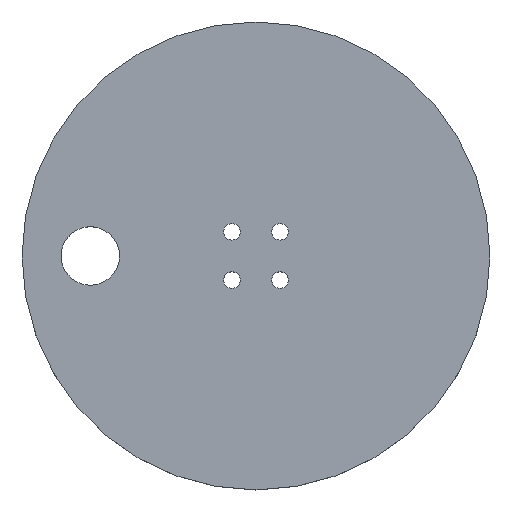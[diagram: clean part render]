
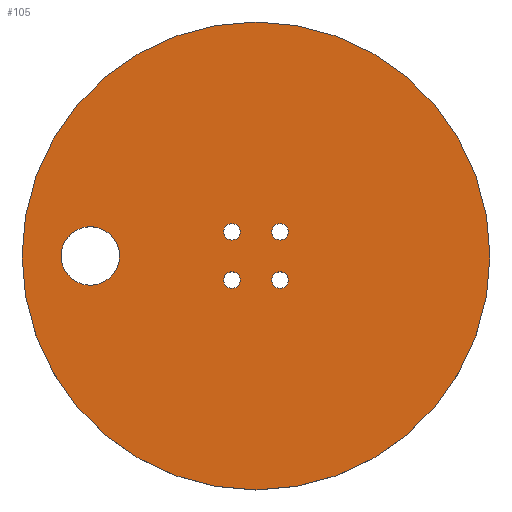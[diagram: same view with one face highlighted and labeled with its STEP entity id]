
A CAD part, top view. The second image highlights one B-rep face of the part: STEP entity #105.
In plain terms, the highlighted planar face has unit normal (0, 0, 1).
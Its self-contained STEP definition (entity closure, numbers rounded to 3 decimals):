
#21 = EDGE_CURVE('',#22,#22,#24,.T.);
#22 = VERTEX_POINT('',#23);
#23 = CARTESIAN_POINT('',(78.,0.,158.381));
#24 = SURFACE_CURVE('',#25,(#30,#42),.PCURVE_S1.);
#25 = CIRCLE('',#26,48.);
#26 = AXIS2_PLACEMENT_3D('',#27,#28,#29);
#27 = CARTESIAN_POINT('',(30.,0.,158.381));
#28 = DIRECTION('',(0.,0.,1.));
#29 = DIRECTION('',(1.,0.,0.));
#30 = PCURVE('',#31,#36);
#31 = CYLINDRICAL_SURFACE('',#32,48.);
#32 = AXIS2_PLACEMENT_3D('',#33,#34,#35);
#33 = CARTESIAN_POINT('',(30.,0.,150.381));
#34 = DIRECTION('',(0.,0.,1.));
#35 = DIRECTION('',(1.,0.,0.));
#36 = DEFINITIONAL_REPRESENTATION('',(#37),#41);
#37 = LINE('',#38,#39);
#38 = CARTESIAN_POINT('',(0.,8.));
#39 = VECTOR('',#40,1.);
#40 = DIRECTION('',(1.,0.));
#41 = ( GEOMETRIC_REPRESENTATION_CONTEXT(2) 
PARAMETRIC_REPRESENTATION_CONTEXT() REPRESENTATION_CONTEXT('2D SPACE',''
  ) );
#42 = PCURVE('',#43,#48);
#43 = PLANE('',#44);
#44 = AXIS2_PLACEMENT_3D('',#45,#46,#47);
#45 = CARTESIAN_POINT('',(30.,0.,158.381));
#46 = DIRECTION('',(0.,0.,1.));
#47 = DIRECTION('',(1.,0.,0.));
#48 = DEFINITIONAL_REPRESENTATION('',(#49),#53);
#49 = CIRCLE('',#50,48.);
#50 = AXIS2_PLACEMENT_2D('',#51,#52);
#51 = CARTESIAN_POINT('',(0.,0.));
#52 = DIRECTION('',(1.,0.));
#53 = ( GEOMETRIC_REPRESENTATION_CONTEXT(2) 
PARAMETRIC_REPRESENTATION_CONTEXT() REPRESENTATION_CONTEXT('2D SPACE',''
  ) );
#105 = ADVANCED_FACE('',(#106,#109,#140,#171,#202,#233),#43,.T.);
#106 = FACE_BOUND('',#107,.T.);
#107 = EDGE_LOOP('',(#108));
#108 = ORIENTED_EDGE('',*,*,#21,.T.);
#109 = FACE_BOUND('',#110,.T.);
#110 = EDGE_LOOP('',(#111));
#111 = ORIENTED_EDGE('',*,*,#112,.F.);
#112 = EDGE_CURVE('',#113,#113,#115,.T.);
#113 = VERTEX_POINT('',#114);
#114 = CARTESIAN_POINT('',(26.75,-4.95,158.381));
#115 = SURFACE_CURVE('',#116,(#121,#128),.PCURVE_S1.);
#116 = CIRCLE('',#117,1.7);
#117 = AXIS2_PLACEMENT_3D('',#118,#119,#120);
#118 = CARTESIAN_POINT('',(25.05,-4.95,158.381));
#119 = DIRECTION('',(0.,0.,1.));
#120 = DIRECTION('',(1.,0.,-0.));
#121 = PCURVE('',#43,#122);
#122 = DEFINITIONAL_REPRESENTATION('',(#123),#127);
#123 = CIRCLE('',#124,1.7);
#124 = AXIS2_PLACEMENT_2D('',#125,#126);
#125 = CARTESIAN_POINT('',(-4.95,-4.95));
#126 = DIRECTION('',(1.,0.));
#127 = ( GEOMETRIC_REPRESENTATION_CONTEXT(2) 
PARAMETRIC_REPRESENTATION_CONTEXT() REPRESENTATION_CONTEXT('2D SPACE',''
  ) );
#128 = PCURVE('',#129,#134);
#129 = CYLINDRICAL_SURFACE('',#130,1.7);
#130 = AXIS2_PLACEMENT_3D('',#131,#132,#133);
#131 = CARTESIAN_POINT('',(25.05,-4.95,149.381));
#132 = DIRECTION('',(0.,0.,1.));
#133 = DIRECTION('',(1.,0.,0.));
#134 = DEFINITIONAL_REPRESENTATION('',(#135),#139);
#135 = LINE('',#136,#137);
#136 = CARTESIAN_POINT('',(0.,9.));
#137 = VECTOR('',#138,1.);
#138 = DIRECTION('',(1.,0.));
#139 = ( GEOMETRIC_REPRESENTATION_CONTEXT(2) 
PARAMETRIC_REPRESENTATION_CONTEXT() REPRESENTATION_CONTEXT('2D SPACE',''
  ) );
#140 = FACE_BOUND('',#141,.T.);
#141 = EDGE_LOOP('',(#142));
#142 = ORIENTED_EDGE('',*,*,#143,.F.);
#143 = EDGE_CURVE('',#144,#144,#146,.T.);
#144 = VERTEX_POINT('',#145);
#145 = CARTESIAN_POINT('',(36.65,-4.95,158.381));
#146 = SURFACE_CURVE('',#147,(#152,#159),.PCURVE_S1.);
#147 = CIRCLE('',#148,1.7);
#148 = AXIS2_PLACEMENT_3D('',#149,#150,#151);
#149 = CARTESIAN_POINT('',(34.95,-4.95,158.381));
#150 = DIRECTION('',(0.,0.,1.));
#151 = DIRECTION('',(1.,0.,-0.));
#152 = PCURVE('',#43,#153);
#153 = DEFINITIONAL_REPRESENTATION('',(#154),#158);
#154 = CIRCLE('',#155,1.7);
#155 = AXIS2_PLACEMENT_2D('',#156,#157);
#156 = CARTESIAN_POINT('',(4.95,-4.95));
#157 = DIRECTION('',(1.,0.));
#158 = ( GEOMETRIC_REPRESENTATION_CONTEXT(2) 
PARAMETRIC_REPRESENTATION_CONTEXT() REPRESENTATION_CONTEXT('2D SPACE',''
  ) );
#159 = PCURVE('',#160,#165);
#160 = CYLINDRICAL_SURFACE('',#161,1.7);
#161 = AXIS2_PLACEMENT_3D('',#162,#163,#164);
#162 = CARTESIAN_POINT('',(34.95,-4.95,149.381));
#163 = DIRECTION('',(0.,0.,1.));
#164 = DIRECTION('',(1.,0.,0.));
#165 = DEFINITIONAL_REPRESENTATION('',(#166),#170);
#166 = LINE('',#167,#168);
#167 = CARTESIAN_POINT('',(0.,9.));
#168 = VECTOR('',#169,1.);
#169 = DIRECTION('',(1.,0.));
#170 = ( GEOMETRIC_REPRESENTATION_CONTEXT(2) 
PARAMETRIC_REPRESENTATION_CONTEXT() REPRESENTATION_CONTEXT('2D SPACE',''
  ) );
#171 = FACE_BOUND('',#172,.T.);
#172 = EDGE_LOOP('',(#173));
#173 = ORIENTED_EDGE('',*,*,#174,.F.);
#174 = EDGE_CURVE('',#175,#175,#177,.T.);
#175 = VERTEX_POINT('',#176);
#176 = CARTESIAN_POINT('',(2.,0.,158.381));
#177 = SURFACE_CURVE('',#178,(#183,#190),.PCURVE_S1.);
#178 = CIRCLE('',#179,6.);
#179 = AXIS2_PLACEMENT_3D('',#180,#181,#182);
#180 = CARTESIAN_POINT('',(-4.,0.,158.381));
#181 = DIRECTION('',(0.,0.,1.));
#182 = DIRECTION('',(1.,0.,-0.));
#183 = PCURVE('',#43,#184);
#184 = DEFINITIONAL_REPRESENTATION('',(#185),#189);
#185 = CIRCLE('',#186,6.);
#186 = AXIS2_PLACEMENT_2D('',#187,#188);
#187 = CARTESIAN_POINT('',(-34.,0.));
#188 = DIRECTION('',(1.,0.));
#189 = ( GEOMETRIC_REPRESENTATION_CONTEXT(2) 
PARAMETRIC_REPRESENTATION_CONTEXT() REPRESENTATION_CONTEXT('2D SPACE',''
  ) );
#190 = PCURVE('',#191,#196);
#191 = CYLINDRICAL_SURFACE('',#192,6.);
#192 = AXIS2_PLACEMENT_3D('',#193,#194,#195);
#193 = CARTESIAN_POINT('',(-4.,0.,149.381));
#194 = DIRECTION('',(0.,0.,1.));
#195 = DIRECTION('',(1.,0.,0.));
#196 = DEFINITIONAL_REPRESENTATION('',(#197),#201);
#197 = LINE('',#198,#199);
#198 = CARTESIAN_POINT('',(0.,9.));
#199 = VECTOR('',#200,1.);
#200 = DIRECTION('',(1.,0.));
#201 = ( GEOMETRIC_REPRESENTATION_CONTEXT(2) 
PARAMETRIC_REPRESENTATION_CONTEXT() REPRESENTATION_CONTEXT('2D SPACE',''
  ) );
#202 = FACE_BOUND('',#203,.T.);
#203 = EDGE_LOOP('',(#204));
#204 = ORIENTED_EDGE('',*,*,#205,.F.);
#205 = EDGE_CURVE('',#206,#206,#208,.T.);
#206 = VERTEX_POINT('',#207);
#207 = CARTESIAN_POINT('',(26.75,4.95,158.381));
#208 = SURFACE_CURVE('',#209,(#214,#221),.PCURVE_S1.);
#209 = CIRCLE('',#210,1.7);
#210 = AXIS2_PLACEMENT_3D('',#211,#212,#213);
#211 = CARTESIAN_POINT('',(25.05,4.95,158.381));
#212 = DIRECTION('',(0.,0.,1.));
#213 = DIRECTION('',(1.,0.,-0.));
#214 = PCURVE('',#43,#215);
#215 = DEFINITIONAL_REPRESENTATION('',(#216),#220);
#216 = CIRCLE('',#217,1.7);
#217 = AXIS2_PLACEMENT_2D('',#218,#219);
#218 = CARTESIAN_POINT('',(-4.95,4.95));
#219 = DIRECTION('',(1.,0.));
#220 = ( GEOMETRIC_REPRESENTATION_CONTEXT(2) 
PARAMETRIC_REPRESENTATION_CONTEXT() REPRESENTATION_CONTEXT('2D SPACE',''
  ) );
#221 = PCURVE('',#222,#227);
#222 = CYLINDRICAL_SURFACE('',#223,1.7);
#223 = AXIS2_PLACEMENT_3D('',#224,#225,#226);
#224 = CARTESIAN_POINT('',(25.05,4.95,149.381));
#225 = DIRECTION('',(0.,0.,1.));
#226 = DIRECTION('',(1.,0.,0.));
#227 = DEFINITIONAL_REPRESENTATION('',(#228),#232);
#228 = LINE('',#229,#230);
#229 = CARTESIAN_POINT('',(0.,9.));
#230 = VECTOR('',#231,1.);
#231 = DIRECTION('',(1.,0.));
#232 = ( GEOMETRIC_REPRESENTATION_CONTEXT(2) 
PARAMETRIC_REPRESENTATION_CONTEXT() REPRESENTATION_CONTEXT('2D SPACE',''
  ) );
#233 = FACE_BOUND('',#234,.T.);
#234 = EDGE_LOOP('',(#235));
#235 = ORIENTED_EDGE('',*,*,#236,.F.);
#236 = EDGE_CURVE('',#237,#237,#239,.T.);
#237 = VERTEX_POINT('',#238);
#238 = CARTESIAN_POINT('',(36.65,4.95,158.381));
#239 = SURFACE_CURVE('',#240,(#245,#252),.PCURVE_S1.);
#240 = CIRCLE('',#241,1.7);
#241 = AXIS2_PLACEMENT_3D('',#242,#243,#244);
#242 = CARTESIAN_POINT('',(34.95,4.95,158.381));
#243 = DIRECTION('',(0.,0.,1.));
#244 = DIRECTION('',(1.,0.,-0.));
#245 = PCURVE('',#43,#246);
#246 = DEFINITIONAL_REPRESENTATION('',(#247),#251);
#247 = CIRCLE('',#248,1.7);
#248 = AXIS2_PLACEMENT_2D('',#249,#250);
#249 = CARTESIAN_POINT('',(4.95,4.95));
#250 = DIRECTION('',(1.,0.));
#251 = ( GEOMETRIC_REPRESENTATION_CONTEXT(2) 
PARAMETRIC_REPRESENTATION_CONTEXT() REPRESENTATION_CONTEXT('2D SPACE',''
  ) );
#252 = PCURVE('',#253,#258);
#253 = CYLINDRICAL_SURFACE('',#254,1.7);
#254 = AXIS2_PLACEMENT_3D('',#255,#256,#257);
#255 = CARTESIAN_POINT('',(34.95,4.95,149.381));
#256 = DIRECTION('',(0.,0.,1.));
#257 = DIRECTION('',(1.,0.,0.));
#258 = DEFINITIONAL_REPRESENTATION('',(#259),#263);
#259 = LINE('',#260,#261);
#260 = CARTESIAN_POINT('',(0.,9.));
#261 = VECTOR('',#262,1.);
#262 = DIRECTION('',(1.,0.));
#263 = ( GEOMETRIC_REPRESENTATION_CONTEXT(2) 
PARAMETRIC_REPRESENTATION_CONTEXT() REPRESENTATION_CONTEXT('2D SPACE',''
  ) );
